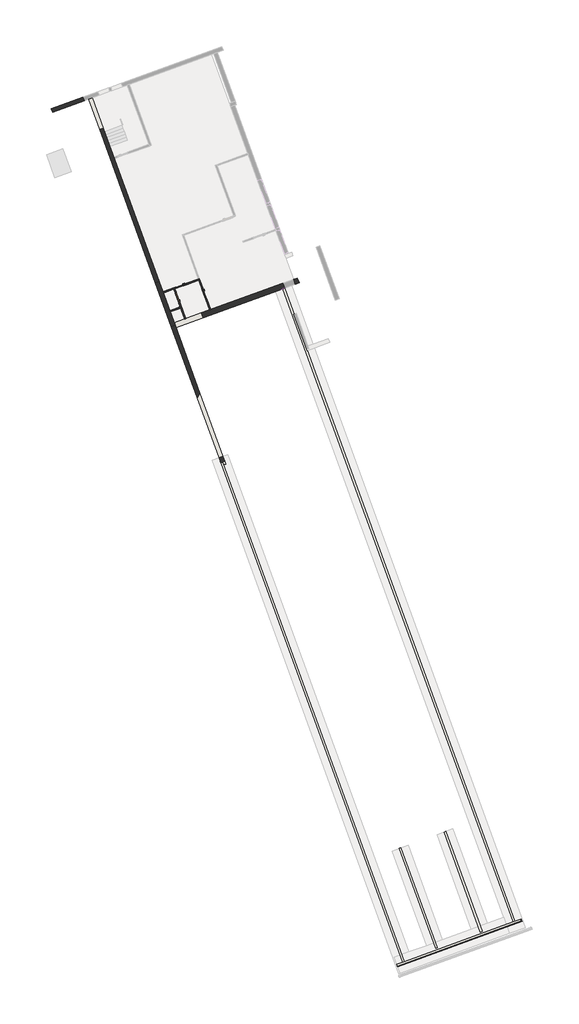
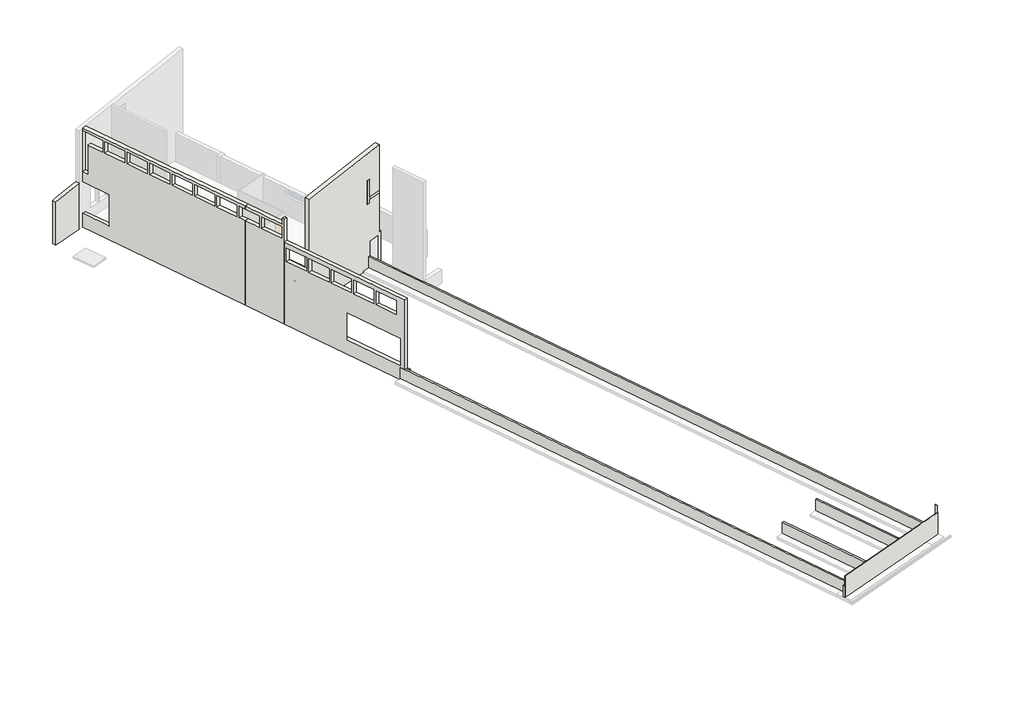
# One storey, part 1 of 2: 18 walls, 3 doors.
"""IFC4 building model written with IfcOpenShell, lengths in millimetres."""

from ifc_helpers import new_model, si_unit, frame, origin, place, context, project, spatial, polyline, outline, extrude, faceted_brep, transform, mapped, element, save
from components import door_9x21_316ed650, door_9x21_ce0798c1

model = new_model("IFC4")

# Units and contexts
model_context = context("Model", 3, world=origin())
ifc_project = project(units=[si_unit("LENGTHUNIT", "METRE", prefix="MILLI")], contexts=[model_context])

# Site, building, storey
site = spatial("IfcSite", under=ifc_project)
building = spatial("IfcBuilding", under=site)
storey = spatial("IfcBuildingStorey", under=building, Name="0.8 kjellar tilbygg", Elevation=1500.0)

# Doors
placement = place(None, origin())
door_9x21_shape = door_9x21_316ed650(model_context)
element("IfcDoor", 1, ObjectType="Innerdør Slett (Diplomat) : 9x21", at=placement, inside=storey, context=model_context, shape_type="MappedRepresentation", body=[
    mapped(door_9x21_shape, transform((23279.6973455, 12878.8046817, 1500.0), x_axis=(0.3420201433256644, -0.93969262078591, 0.0), y_axis=(0.93969262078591, 0.3420201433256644, 0.0), z_axis=(0.0, 0.0, 1.0))),
])
element("IfcDoor", 2, ObjectType="Innerdør Slett (Diplomat) : 9x21", at=placement, inside=storey, context=model_context, shape_type="MappedRepresentation", body=[
    mapped(door_9x21_shape, transform((23517.7503428, 13764.4943933, 1500.0), x_axis=(0.9396926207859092, 0.3420201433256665, 0.0), y_axis=(-0.3420201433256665, 0.9396926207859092, 0.0), z_axis=(0.0, 0.0, 1.0))),
])
door_9x21_2_shape = door_9x21_ce0798c1(model_context)
element("IfcDoor", 3, ObjectType="Innerdør Slett (Diplomat) : 9x21", at=placement, inside=storey, context=model_context, shape_type="MappedRepresentation", body=[
    mapped(door_9x21_2_shape, transform((25443.7185078, 13131.6707315, 1500.0), x_axis=(-0.3420201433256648, 0.9396926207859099, 0.0), y_axis=(-0.9396926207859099, -0.3420201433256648, 0.0), z_axis=(0.0, 0.0, 1.0))),
])

# Walls
element("IfcWall", 4, ObjectType="Yttervegg 150 betong + 150 leca innv puss seksjonsskille", at=placement, inside=storey, context=model_context, shape_type="Brep", body=[
    faceted_brep([(23092.5359446, 10630.0312462, 1200.0), (23020.7117145, 10827.3666966, 1200.0), (21817.7999056, 14132.3397293, 1200.0), (21817.7999056, 14132.3397293, 3900.0), (23092.5359446, 10630.0312462, 3900.0), (21817.7999056, 14132.3397293, 9830.0), (21817.7999056, 14132.3397293, 10117.1214857), (23020.7117145, 10827.3666966, 10117.1214857), (23020.7117145, 10827.3666966, 10600.0), (23092.5359446, 10630.0312462, 10600.0), (23092.5359446, 10630.0312462, 4100.0), (21863.9726249, 14005.4812255, 4100.0), (21817.7999056, 14132.3397293, 4100.0), (21817.7999056, 14132.3397293, 8800.0), (22280.3631289, 12861.4577182, 8800.0), (22280.3631289, 12861.4577182, 9830.0), (22348.7671575, 12673.5191941, 9830.0), (22348.7671575, 12673.5191941, 8800.0), (23008.8660342, 10859.912436, 8800.0), (23008.8660342, 10859.912436, 9830.0), (21526.4951931, 14026.3134849, 1200.0), (22801.2312322, 10524.0050018, 1200.0), (22801.2312322, 10524.0050018, 8560.0), (22801.2312322, 10524.0050018, 10600.0), (22729.4070021, 10721.3404522, 10600.0), (22729.4070021, 10721.3404522, 10090.0), (21526.4951931, 14026.3134849, 10090.0), (21526.4951931, 14026.3134849, 9830.0), (21989.0584164, 12755.4314738, 9830.0), (21989.0584164, 12755.4314738, 8800.0), (21526.4951931, 14026.3134849, 8800.0), (22057.4624451, 12567.4929497, 8800.0), (22057.4624451, 12567.4929497, 9830.0), (22717.5613217, 10753.8861915, 9830.0), (22717.5613217, 10753.8861915, 8800.0), (22946.8835884, 10577.018124, 3900.0), (22946.8835884, 10577.018124, 4100.0), (21672.1475494, 14079.3266071, 4100.0), (21672.1475494, 14079.3266071, 3900.0)], [[[0, 1, 2, 3, 4]], [[5, 6, 7, 8, 9, 10, 11, 12, 13, 14, 15], [16, 17, 18, 19]], [[20, 21, 22, 23, 24, 25, 26, 27, 28, 29, 30], [31, 32, 33, 34]], [[2, 1, 0, 21, 20]], [[9, 23, 22, 21, 0, 4, 35, 36, 10]], [[32, 31, 17, 16]], [[33, 32, 16, 19]], [[34, 33, 19, 18]], [[31, 34, 18, 17]], [[2, 20, 30, 13, 12, 37, 38, 3]], [[26, 6, 5, 27]], [[15, 28, 27, 5]], [[28, 15, 14, 29]], [[29, 14, 13, 30]], [[38, 35, 4, 3]], [[36, 37, 12, 11, 10]], [[35, 38, 37, 36]], [[23, 9, 8, 24]], [[24, 8, 7, 25]], [[6, 26, 25, 7]]]),
])
element("IfcWall", 5, ObjectType="Yttervegg 150 betong + 150 leca innv puss", at=placement, inside=storey, context=model_context, shape_type="Brep", body=[
    faceted_brep([(15707.0217552, 28874.9016327, 1200.0), (13207.4393839, 27965.1280515, 1200.0), (13207.4393839, 27965.1280515, 5080.5104235), (13489.3471701, 28067.7340945, 5112.0416941), (13827.6365136, 28190.8613461, 5149.8792188), (15707.0217552, 28874.9016327, 5360.0876893), (15813.0479996, 28583.5969203, 1200.0), (15813.0479996, 28583.5969203, 5360.0876893), (13313.4656283, 27673.823339, 5080.5104235), (13313.4656283, 27673.823339, 1200.0)], [[[0, 1, 2, 3, 4, 5]], [[6, 7, 8, 9]], [[1, 0, 6, 9]], [[2, 1, 9, 8]], [[0, 5, 7, 6]], [[5, 4, 3, 2, 8, 7]]]),
])
element("IfcWall", 6, ObjectType="Yttervegg 150 betong + 150 leca innv puss seksjonsskille", at=placement, inside=storey, context=model_context, shape_type="Brep", body=[
    faceted_brep([(27136.25662, -480.0, 1200.0), (23164.3601747, 10432.6957959, 1200.0), (23092.5359446, 10630.0312462, 1200.0), (23092.5359446, 10630.0312462, 3900.0), (23092.5359446, 10630.0312462, 4100.0), (23092.5359446, 10630.0312462, 8560.0), (27049.6269282, -241.9868778, 8560.0), (27049.6269282, -241.9868778, 2300.0), (27136.25662, -480.0, 2300.0), (23166.0702755, 10427.9973328, 6900.0), (23826.1691521, 8614.3905746, 6900.0), (23826.1691521, 8614.3905746, 8130.0), (23166.0702755, 10427.9973328, 8130.0), (23904.833785, 8398.2612719, 6900.0), (24564.9326617, 6584.6545137, 6900.0), (24564.9326617, 6584.6545137, 8130.0), (23904.833785, 8398.2612719, 8130.0), (24636.7568918, 6387.3190634, 6900.0), (25296.8557684, 4573.7123053, 6900.0), (25296.8557684, 4573.7123053, 8130.0), (24636.7568918, 6387.3190634, 8130.0), (25368.6799985, 4376.3768549, 6900.0), (26028.7788751, 2562.7700968, 6900.0), (26028.7788751, 2562.7700968, 8130.0), (25368.6799985, 4376.3768549, 8130.0), (26110.8637095, 2337.2438678, 6900.0), (26770.9625861, 523.6371097, 6900.0), (26770.9625861, 523.6371097, 8130.0), (26110.8637095, 2337.2438678, 8130.0), (26905.6979063, 153.4548599, 4899.8), (25066.8558497, 5205.6318882, 4899.8), (25066.8558497, 5205.6318882, 2480.8), (26905.6979063, 153.4548599, 2480.8), (22801.2312322, 10524.0050018, 8560.0), (22801.2312322, 10524.0050018, 1200.0), (26806.3615106, -480.0, 1200.0), (26806.3615106, -480.0, 2050.0), (26806.3615106, -480.0, 2300.0), (26758.3222157, -348.0131222, 2300.0), (26758.3222157, -348.0131222, 8560.0), (22874.765563, 10321.9710883, 6900.0), (22874.765563, 10321.9710883, 8130.0), (23534.8644396, 8508.3643302, 8130.0), (23534.8644396, 8508.3643302, 6900.0), (23613.5290726, 8292.2350274, 6900.0), (23613.5290726, 8292.2350274, 8130.0), (24273.6279492, 6478.6282693, 8130.0), (24273.6279492, 6478.6282693, 6900.0), (24345.4521793, 6281.292819, 6900.0), (24345.4521793, 6281.292819, 8130.0), (25005.5510559, 4467.6860608, 8130.0), (25005.5510559, 4467.6860608, 6900.0), (25077.375286, 4270.3506105, 6900.0), (25077.375286, 4270.3506105, 8130.0), (25737.4741626, 2456.7438524, 8130.0), (25737.4741626, 2456.7438524, 6900.0), (25819.558997, 2231.2176234, 6900.0), (25819.558997, 2231.2176234, 8130.0), (26479.6578737, 417.6108652, 8130.0), (26479.6578737, 417.6108652, 6900.0), (24866.8558497, 4848.7480081, 4899.8), (26614.3931938, 47.4286155, 4899.8), (26614.3931938, 47.4286155, 2480.8), (24866.8558497, 4848.7480081, 2480.8)], [[[0, 1, 2, 3, 4, 5, 6, 7, 8], [9, 10, 11, 12], [13, 14, 15, 16], [17, 18, 19, 20], [21, 22, 23, 24], [25, 26, 27, 28], [29, 30, 31, 32]], [[33, 34, 35, 36, 37, 38, 39], [40, 41, 42, 43], [44, 45, 46, 47], [48, 49, 50, 51], [52, 53, 54, 55], [56, 57, 58, 59], [60, 61, 62, 63]], [[2, 1, 0, 35, 34]], [[6, 5, 33, 39]], [[2, 34, 33, 5, 4, 3]], [[40, 43, 10, 9]], [[43, 42, 11, 10]], [[42, 41, 12, 11]], [[41, 40, 9, 12]], [[44, 47, 14, 13]], [[47, 46, 15, 14]], [[46, 45, 16, 15]], [[45, 44, 13, 16]], [[48, 51, 18, 17]], [[51, 50, 19, 18]], [[50, 49, 20, 19]], [[49, 48, 17, 20]], [[52, 55, 22, 21]], [[55, 54, 23, 22]], [[54, 53, 24, 23]], [[53, 52, 21, 24]], [[56, 59, 26, 25]], [[59, 58, 27, 26]], [[58, 57, 28, 27]], [[57, 56, 25, 28]], [[29, 61, 60, 30]], [[31, 63, 62, 32]], [[61, 29, 32, 62]], [[30, 60, 63, 31]], [[7, 6, 39, 38]], [[0, 8, 37, 36, 35]], [[7, 38, 37, 8]]]),
])
element("IfcWall", 7, ObjectType="Yttervegg 150 betong + 150 leca innv puss", at=placement, inside=storey, context=model_context, shape_type="Brep", body=[
    faceted_brep([(21817.7999056, 14132.3397293, 1200.0), (16470.8328342, 28823.0110206, 1200.0), (16470.8328342, 28823.0110206, 2430.0), (17349.8246025, 26408.0009852, 2430.0), (17349.8246025, 26408.0009852, 5254.5549543), (16470.8328342, 28823.0110206, 5254.5549543), (16470.8328342, 28823.0110206, 10117.1214857), (21817.7999056, 14132.3397293, 10117.1214857), (21817.7999056, 14132.3397293, 9830.0), (21620.2642523, 14675.0644764, 9830.0), (21620.2642523, 14675.0644764, 8800.0), (21817.7999056, 14132.3397293, 8800.0), (21817.7999056, 14132.3397293, 4100.0), (21817.7999056, 14132.3397293, 3900.0), (20878.0805412, 16714.1974635, 8800.0), (21538.1794179, 14900.5907054, 8800.0), (21538.1794179, 14900.5907054, 9830.0), (20878.0805412, 16714.1974635, 9830.0), (20149.577636, 18715.7427457, 8800.0), (20809.6765126, 16902.1359876, 8800.0), (20809.6765126, 16902.1359876, 9830.0), (20149.577636, 18715.7427457, 9830.0), (19407.3939249, 20754.8757328, 8800.0), (20067.4928016, 18941.2689747, 8800.0), (20067.4928016, 18941.2689747, 9830.0), (19407.3939249, 20754.8757328, 9830.0), (18678.8910197, 22756.4210151, 8800.0), (19338.9898963, 20942.814257, 8800.0), (19338.9898963, 20942.814257, 9830.0), (18678.8910197, 22756.4210151, 9830.0), (17936.7073086, 24795.5540022, 8800.0), (18596.8061853, 22981.9472441, 8800.0), (18596.8061853, 22981.9472441, 9830.0), (17936.7073086, 24795.5540022, 9830.0), (17201.3640005, 26815.8931369, 8800.0), (17861.4628771, 25002.2863788, 8800.0), (17861.4628771, 25002.2863788, 9830.0), (17201.3640005, 26815.8931369, 9830.0), (16472.8610952, 28817.4384192, 9830.0), (16472.8610952, 28817.4384192, 6190.0), (16647.2913683, 28338.1951826, 6190.0), (16647.2913683, 28338.1951826, 8800.0), (17132.9599718, 27003.8316611, 8800.0), (17132.9599718, 27003.8316611, 9830.0), (16179.5281217, 28716.9847762, 1200.0), (21526.4951931, 14026.3134849, 1200.0), (21526.4951931, 14026.3134849, 8800.0), (21328.9595398, 14569.0382319, 8800.0), (21328.9595398, 14569.0382319, 9830.0), (21526.4951931, 14026.3134849, 9830.0), (21526.4951931, 14026.3134849, 10090.0), (16179.5281217, 28716.9847762, 10090.0), (16179.5281217, 28716.9847762, 5254.5549543), (17058.5198901, 26301.9747408, 5254.5549543), (17058.5198901, 26301.9747408, 2430.0), (16179.5281217, 28716.9847762, 2430.0), (21246.8747054, 14794.5644609, 8800.0), (20586.7758288, 16608.171219, 8800.0), (20586.7758288, 16608.171219, 9830.0), (21246.8747054, 14794.5644609, 9830.0), (20518.3718001, 16796.1097432, 8800.0), (19858.2729235, 18609.7165013, 8800.0), (19858.2729235, 18609.7165013, 9830.0), (20518.3718001, 16796.1097432, 9830.0), (19776.1880891, 18835.2427303, 8800.0), (19116.0892125, 20648.8494884, 8800.0), (19116.0892125, 20648.8494884, 9830.0), (19776.1880891, 18835.2427303, 9830.0), (19047.6851838, 20836.7880126, 8800.0), (18387.5863072, 22650.3947707, 8800.0), (18387.5863072, 22650.3947707, 9830.0), (19047.6851838, 20836.7880126, 9830.0), (18305.5014728, 22875.9209997, 8800.0), (17645.4025962, 24689.5277578, 8800.0), (17645.4025962, 24689.5277578, 9830.0), (18305.5014728, 22875.9209997, 9830.0), (17570.1581647, 24896.2601344, 8800.0), (16910.059288, 26709.8668925, 8800.0), (16910.059288, 26709.8668925, 9830.0), (17570.1581647, 24896.2601344, 9830.0), (16181.5563828, 28711.4121748, 6190.0), (16181.5563828, 28711.4121748, 9830.0), (16841.6552594, 26897.8054166, 9830.0), (16841.6552594, 26897.8054166, 8800.0), (16355.9866559, 28232.1689382, 8800.0), (16355.9866559, 28232.1689382, 6190.0)], [[[0, 1, 2, 3, 4, 5, 6, 7, 8, 9, 10, 11, 12, 13], [14, 15, 16, 17], [18, 19, 20, 21], [22, 23, 24, 25], [26, 27, 28, 29], [30, 31, 32, 33], [34, 35, 36, 37], [38, 39, 40, 41, 42, 43]], [[44, 45, 46, 47, 48, 49, 50, 51, 52, 53, 54, 55], [56, 57, 58, 59], [60, 61, 62, 63], [64, 65, 66, 67], [68, 69, 70, 71], [72, 73, 74, 75], [76, 77, 78, 79], [80, 81, 82, 83, 84, 85]], [[1, 0, 45, 44]], [[1, 44, 55, 2]], [[51, 6, 5, 52]], [[7, 6, 51, 50]], [[57, 56, 15, 14]], [[56, 59, 16, 15]], [[59, 58, 17, 16]], [[58, 57, 14, 17]], [[61, 60, 19, 18]], [[60, 63, 20, 19]], [[63, 62, 21, 20]], [[62, 61, 18, 21]], [[65, 64, 23, 22]], [[64, 67, 24, 23]], [[67, 66, 25, 24]], [[66, 65, 22, 25]], [[69, 68, 27, 26]], [[68, 71, 28, 27]], [[71, 70, 29, 28]], [[70, 69, 26, 29]], [[73, 72, 31, 30]], [[72, 75, 32, 31]], [[75, 74, 33, 32]], [[74, 73, 30, 33]], [[77, 76, 35, 34]], [[76, 79, 36, 35]], [[79, 78, 37, 36]], [[78, 77, 34, 37]], [[45, 0, 13, 12, 11, 46]], [[7, 50, 49, 8]], [[38, 81, 80, 39]], [[81, 38, 43, 82]], [[82, 43, 42, 83]], [[83, 42, 41, 84]], [[47, 10, 9, 48]], [[48, 9, 8, 49]], [[10, 47, 46, 11]], [[3, 54, 53, 4]], [[4, 53, 52, 5]], [[54, 3, 2, 55]], [[40, 85, 84, 41]], [[85, 40, 39, 80]]]),
])
element("IfcWall", 8, ObjectType="Yttervegg Mur 250 Lettklinkerm/påforing 150 leca seksjonsskille", at=placement, inside=storey, context=model_context, shape_type="Brep", body=[
    faceted_brep([(25200.7985948, 11620.8534291, 1200.0), (23020.7117145, 10827.3666966, 1200.0), (23020.7117145, 10827.3666966, 2500.0), (25200.7985948, 11620.8534291, 2500.0), (25344.447055, 11226.1825284, 1200.0), (25344.447055, 11226.1825284, 2500.0), (23164.3601747, 10432.6957959, 2500.0), (23164.3601747, 10432.6957959, 1200.0), (23092.5359446, 10630.0312462, 1200.0)], [[[0, 1, 2, 3]], [[4, 5, 6, 7]], [[1, 0, 4, 7, 8]], [[3, 2, 6, 5]], [[0, 3, 5, 4]], [[2, 1, 8, 7, 6]]]),
])
element("IfcWall", 9, ObjectType="Ringmur - 150mm Betong", at=placement, inside=storey, context=model_context, shape_type="SweptSolid", body=[
    extrude(outline(polyline([(50127.3710172, -37070.1856568), (31706.1660977, 13541.6588987), (31847.1199908, 13592.9619202), (50268.3249103, -37018.8826353), (50127.3710172, -37070.1856568)])), frame((0.0, 0.0, 1300.0), z_axis=(0.0, 0.0, 1.0), x_axis=(1.0, 0.0, 0.0)), (0.0, 0.0, 1.0), 1000.0),
])
element("IfcWall", 10, ObjectType="Ringmur - 150mm Betong", at=placement, inside=storey, context=model_context, shape_type="Brep", body=[
    faceted_brep([(50738.1712207, -36847.8725637, 1300.0), (50268.3249103, -37018.8826353, 1300.0), (50127.3710172, -37070.1856568, 1300.0), (41435.2142749, -40233.8719826, 1300.0), (41294.2603818, -40285.1750041, 1300.0), (40824.4140714, -40456.1850758, 1300.0), (40824.4140714, -40456.1850758, 2300.0), (41294.2603818, -40285.1750041, 2300.0), (41435.2142749, -40233.8719826, 2300.0), (50127.3710172, -37070.1856568, 2300.0), (50268.3249103, -37018.8826353, 2300.0), (50738.1712207, -36847.8725637, 2300.0), (50789.4742422, -36988.8264568, 1300.0), (50789.4742422, -36988.8264568, 2300.0), (40875.7170929, -40597.1389689, 2300.0), (40875.7170929, -40597.1389689, 1300.0)], [[[0, 1, 2, 3, 4, 5, 6, 7, 8, 9, 10, 11]], [[12, 13, 14, 15]], [[5, 4, 3, 2, 1, 0, 12, 15]], [[6, 5, 15, 14]], [[11, 10, 9, 8, 7, 6, 14, 13]], [[0, 11, 13, 12]]]),
])
element("IfcWall", 11, ObjectType="Ringmur - 150mm Betong", at=placement, inside=storey, context=model_context, shape_type="SweptSolid", body=[
    extrude(outline(polyline([(26755.3470869, 98.731637), (41435.2142749, -40233.8719826), (41294.2603818, -40285.1750041), (26614.3931938, 47.4286155), (26755.3470869, 98.731637)])), frame((0.0, 0.0, 1300.0), z_axis=(0.0, 0.0, 1.0), x_axis=(1.0, 0.0, 0.0)), (0.0, 0.0, 1.0), 1000.0),
])
element("IfcWall", 12, ObjectType="Ringmur - 150mm Betong", at=placement, inside=storey, context=model_context, shape_type="SweptSolid", body=[
    extrude(outline(polyline([(41153.5857427, -31141.8804312), (44061.7830214, -39132.0867858), (43920.8291283, -39183.3898073), (41012.6318496, -31193.1834527), (41153.5857427, -31141.8804312)])), frame((0.0, 0.0, 1300.0), z_axis=(0.0, 0.0, 1.0), x_axis=(1.0, 0.0, 0.0)), (0.0, 0.0, 1.0), 1000.0),
])
element("IfcWall", 13, ObjectType="Ringmur - 150mm Betong", at=placement, inside=storey, context=model_context, shape_type="SweptSolid", body=[
    extrude(outline(polyline([(44743.2115541, -29835.3634837), (47651.4088328, -37825.5698383), (47510.4549397, -37876.8728598), (44602.257661, -29886.6665052), (44743.2115541, -29835.3634837)])), frame((0.0, 0.0, 1300.0), z_axis=(0.0, 0.0, 1.0), x_axis=(1.0, 0.0, 0.0)), (0.0, 0.0, 1.0), 1000.0),
])
element("IfcWall", 14, ObjectType="Drensplate", at=placement, inside=storey, context=model_context, shape_type="Brep", body=[
    faceted_brep([(40891.4500195, -40640.3648294, 1323.0029094), (50833.3979474, -37021.791713, 1323.0029094), (50833.3979474, -37021.791713, 3260.0), (40891.4500195, -40640.3648294, 3260.0), (40886.3197174, -40626.2694401, 1323.0029094), (40886.3197174, -40626.2694401, 3260.0), (50828.2676453, -37007.6963237, 3260.0), (50828.2676453, -37007.6963237, 1500.0), (50828.2676453, -37007.6963237, 1323.0029094)], [[[0, 1, 2, 3]], [[4, 5, 6, 7, 8]], [[1, 0, 4, 8]], [[3, 2, 6, 5]], [[0, 3, 5, 4]], [[2, 1, 8, 7, 6]]]),
])
element("IfcWall", 15, ObjectType="Drensplate", at=placement, inside=storey, context=model_context, shape_type="Brep", body=[
    faceted_brep([(50828.2676453, -37007.6963237, 1500.0), (50764.9939188, -36833.8531889, 1500.0), (50764.9939188, -36833.8531889, 3900.0), (50828.2676453, -37007.6963237, 3900.0), (50828.2676453, -37007.6963237, 3260.0), (50814.172256, -37012.8266259, 1500.0), (50814.172256, -37012.8266259, 3900.0), (50750.8985295, -36838.983491, 3900.0), (50750.8985295, -36838.983491, 1500.0)], [[[0, 1, 2, 3, 4]], [[5, 6, 7, 8]], [[1, 0, 5, 8]], [[2, 1, 8, 7]], [[3, 2, 7, 6]], [[0, 4, 3, 6, 5]]]),
])
element("IfcWall", 16, ObjectType="Yttervegg Mur 250 Lettklinkerm/påforing 150 leca seksjonsskille", at=placement, inside=storey, context=model_context, shape_type="Brep", body=[
    faceted_brep([(32878.0873066, 14415.1580001, 1200.0), (25200.7985948, 11620.8534291, 1200.0), (25200.7985948, 11620.8534291, 2500.0), (25200.7985948, 11620.8534291, 7404.8055256), (25200.7985948, 11620.8534291, 9020.0), (25200.7985948, 11620.8534291, 11038.265326), (32727.7364873, 14360.4347772, 11697.9469641), (32727.7364873, 14360.4347772, 7600.0), (32727.7364873, 14360.4347772, 7330.0), (32727.7364873, 14360.4347772, 3900.0), (32878.0873066, 14415.1580001, 3900.0), (32572.6872048, 14304.0014535, 1500.0), (32572.6872048, 14304.0014535, 3610.0), (31717.5669199, 13992.7631231, 3610.0), (31717.5669199, 13992.7631231, 1500.0), (25344.447055, 11226.1825284, 1200.0), (33021.7357668, 14020.4870994, 1200.0), (33021.7357668, 14020.4870994, 3900.0), (32871.3849475, 13965.7638764, 3900.0), (32871.3849475, 13965.7638764, 7330.0), (31847.1199908, 13592.9619202, 7330.0), (31847.1199908, 13592.9619202, 7070.0), (31555.8152784, 13486.9356758, 7070.0), (31555.8152784, 13486.9356758, 9194.0), (31847.1199908, 13592.9619202, 9194.0), (31847.1199908, 13592.9619202, 7600.0), (32871.3849475, 13965.7638764, 7600.0), (32871.3849475, 13965.7638764, 11697.9469641), (25344.447055, 11226.1825284, 11038.265326), (25344.447055, 11226.1825284, 8803.8418258), (25344.447055, 11226.1825284, 6020.0), (25344.447055, 11226.1825284, 2500.0), (32716.335665, 13909.3305528, 3610.0), (32716.335665, 13909.3305528, 1500.0), (31861.2153801, 13598.0922223, 1500.0), (31861.2153801, 13598.0922223, 3610.0), (31845.4098901, 13597.6603833, 9194.0), (31845.4098901, 13597.6603833, 7600.0), (31845.4098901, 13597.6603833, 7070.0), (31845.4098901, 13597.6603833, 7330.0), (31554.1051776, 13491.6341389, 7070.0), (31554.1051776, 13491.6341389, 9194.0), (31843.6998303, 13602.3587848, 7330.0), (32867.9647706, 13975.1607351, 7330.0), (31843.6998303, 13602.3587848, 7600.0), (32867.9647706, 13975.1607351, 7600.0)], [[[0, 1, 2, 3, 4, 5, 6, 7, 8, 9, 10], [11, 12, 13, 14]], [[15, 16, 17, 18, 19, 20, 21, 22, 23, 24, 25, 26, 27, 28, 29, 30, 31], [32, 33, 34, 35]], [[1, 0, 16, 15]], [[6, 5, 28, 27]], [[11, 33, 32, 12]], [[12, 32, 35, 13]], [[13, 35, 34, 14]], [[33, 11, 14, 34]], [[24, 36, 37, 25]], [[38, 21, 20, 39]], [[40, 41, 23, 22]], [[41, 40, 38, 39, 37, 36]], [[41, 36, 24, 23]], [[38, 40, 22, 21]], [[1, 15, 31, 30, 29, 28, 5, 4, 3, 2]], [[42, 39, 20, 19, 43]], [[37, 44, 45, 26, 25]], [[42, 44, 37, 39]], [[44, 42, 43, 45]], [[18, 17, 10, 9]], [[16, 0, 10, 17]], [[6, 27, 26, 45, 43, 19, 18, 9, 8, 7]]]),
])
element("IfcWall", 17, ObjectType="Yttervegg Mur 250 Lettklinkerm/påforing 150 leca seksjonsskille", at=placement, inside=storey, context=model_context, shape_type="Brep", body=[
    faceted_brep([(31847.1199908, 13592.9619202, 7070.0), (31847.1199908, 13592.9619202, 7330.0), (31847.1199908, 13592.9619202, 7600.0), (31847.1199908, 13592.9619202, 9194.0), (31555.8152784, 13486.9356758, 9194.0), (31555.8152784, 13486.9356758, 7070.0), (31845.4098901, 13597.6603833, 7070.0), (31845.4098901, 13597.6603833, 7330.0), (31845.4098901, 13597.6603833, 7600.0), (31845.4098901, 13597.6603833, 9194.0), (31554.1051776, 13491.6341389, 9194.0), (31554.1051776, 13491.6341389, 7070.0)], [[[0, 1, 2, 3, 4, 5]], [[6, 7, 8, 9, 3, 2, 1, 0]], [[10, 11, 5, 4]], [[9, 8, 7, 6, 11, 10]], [[9, 10, 4, 3]], [[11, 6, 0, 5]]]),
])
element("IfcWall", 18, ObjectType="Retaining - 100mm Concrete", at=placement, inside=storey, context=model_context, shape_type="SweptSolid", body=[
    extrude(outline(polyline([(18215.5646909, -2115.0), (18215.5646909, 0.0), (19160.5619433, 0.0), (19160.5619433, -2600.0), (16610.564691, -2600.0), (16610.564691, 0.0), (17305.564691, 0.0), (17305.564691, -2115.0), (18215.5646909, -2115.0)])), frame((19304.0060858, 29854.2017527, 1500.0), z_axis=(0.9396926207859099, 0.3420201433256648, 0.0), x_axis=(0.3420201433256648, -0.9396926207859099, 0.0)), (0.0, 0.0, 1.0), 100.0),
])
element("IfcWall", 19, ObjectType="Retaining - 100mm Concrete", at=placement, inside=storey, context=model_context, shape_type="Brep", body=[
    faceted_brep([(22151.9805505, 13214.1859534, 1500.0), (22993.0054461, 13520.2939817, 1500.0), (23086.9747082, 13554.495996, 1500.0), (23157.4516547, 13580.1475068, 1500.0), (23157.4516547, 13580.1475068, 3615.0), (24012.5719397, 13891.3858372, 3615.0), (24012.5719397, 13891.3858372, 1500.0), (24985.1538022, 14245.3766855, 1500.0), (25079.1230642, 14279.5786999, 1500.0), (25079.1230642, 14279.5786999, 4100.0), (24985.1538022, 14245.3766855, 4100.0), (23086.9747082, 13554.495996, 4100.0), (22993.0054461, 13520.2939817, 4100.0), (22151.9805505, 13214.1859534, 4100.0), (23123.2496404, 13674.1167688, 3615.0), (23123.2496404, 13674.1167688, 1500.0), (22117.7785362, 13308.1552155, 1500.0), (22117.7785362, 13308.1552155, 4100.0), (24950.9517878, 14339.3459476, 4100.0), (25044.9210499, 14373.5479619, 4100.0), (25044.9210499, 14373.5479619, 1500.0), (24950.9517878, 14339.3459476, 1500.0), (23978.3699253, 13985.3550993, 1500.0), (23978.3699253, 13985.3550993, 3615.0)], [[[0, 1, 2, 3, 4, 5, 6, 7, 8, 9, 10, 11, 12, 13]], [[14, 15, 16, 17, 18, 19, 20, 21, 22, 23]], [[16, 15, 3, 2, 1, 0]], [[22, 21, 20, 8, 7, 6]], [[13, 12, 11, 10, 9, 19, 18, 17]], [[0, 13, 17, 16]], [[9, 8, 20, 19]], [[4, 3, 15, 14]], [[5, 4, 14, 23]], [[6, 5, 23, 22]]]),
])
element("IfcWall", 20, ObjectType="Retaining - 100mm Concrete", at=placement, inside=storey, context=model_context, shape_type="Brep", body=[
    faceted_brep([(22993.0054461, 13520.2939817, 1500.0), (23095.350459, 13239.1033697, 1500.0), (23095.350459, 13239.1033697, 3615.0), (23406.5887894, 12383.9830848, 3615.0), (23406.5887894, 12383.9830848, 1500.0), (23508.9338023, 12102.7924728, 1500.0), (23543.1358167, 12008.8232108, 1500.0), (23861.7366101, 11133.4747249, 1500.0), (23861.7366101, 11133.4747249, 4100.0), (23543.1358167, 12008.8232108, 4100.0), (23508.9338023, 12102.7924728, 4100.0), (22993.0054461, 13520.2939817, 4100.0), (23189.3197211, 13273.305384, 3615.0), (23189.3197211, 13273.305384, 1500.0), (23086.9747082, 13554.495996, 1500.0), (23086.9747082, 13554.495996, 4100.0), (23955.7058722, 11167.6767392, 4100.0), (23955.7058722, 11167.6767392, 1500.0), (23500.5580515, 12418.1850991, 1500.0), (23500.5580515, 12418.1850991, 3615.0)], [[[0, 1, 2, 3, 4, 5, 6, 7, 8, 9, 10, 11]], [[12, 13, 14, 15, 16, 17, 18, 19]], [[18, 17, 7, 6, 5, 4]], [[14, 13, 1, 0]], [[11, 10, 9, 8, 16, 15]], [[0, 11, 15, 14]], [[8, 7, 17, 16]], [[2, 1, 13, 12]], [[3, 2, 12, 19]], [[4, 3, 19, 18]]]),
])
element("IfcWall", 21, ObjectType="Retaining - 100mm Concrete", at=placement, inside=storey, context=model_context, shape_type="SweptSolid", body=[
    extrude(outline(polyline([(22667.9089067, 11796.6844446), (23508.9338023, 12102.7924728), (23543.1358167, 12008.8232108), (22702.1109211, 11702.7151825), (22667.9089067, 11796.6844446)])), frame((0.0, 0.0, 1500.0), z_axis=(0.0, 0.0, 1.0), x_axis=(1.0, 0.0, 0.0)), (0.0, 0.0, 1.0), 2600.0),
])

save(model, "model.ifc")
